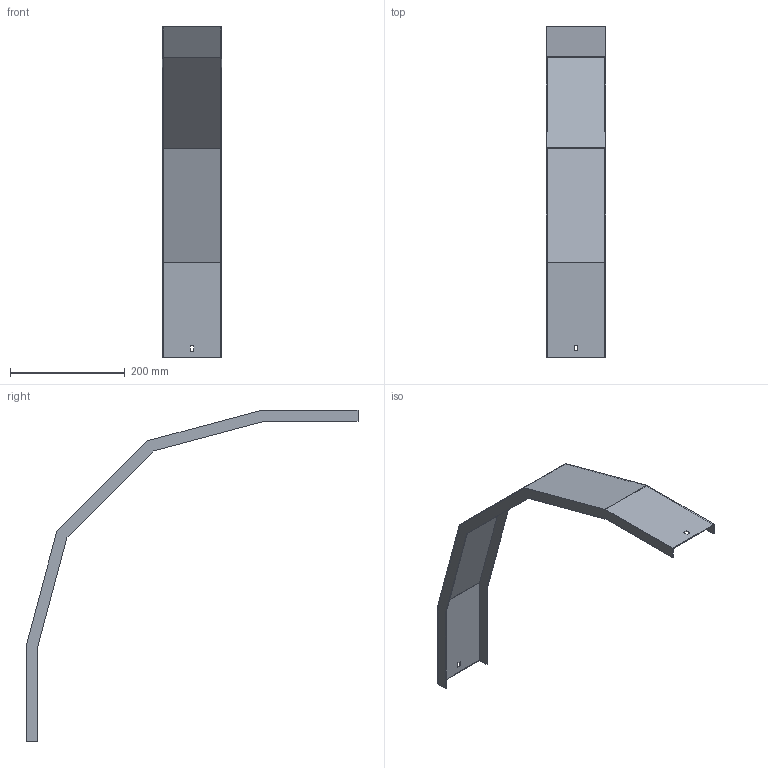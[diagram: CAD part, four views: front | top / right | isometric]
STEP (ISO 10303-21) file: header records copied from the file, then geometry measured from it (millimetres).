
FILE_DESCRIPTION (( 'STEP AP214' ), '1' );
FILE_NAME ('A2_33N3J100.step', '2025-02-21T10:45:22', ( '' ), ( '' ), 'SwSTEP 2.0', 'SolidWorks 2023', '' );
FILE_SCHEMA (( 'AUTOMOTIVE_DESIGN' ));
Length unit declared in the file: millimetre
Products named in the file (1): A2_33N3J100
Bounding box: 103 x 579.05 x 579.05 mm (x, y, z)
Volume: 202798.9 mm3; surface area: 273735.2 mm2
Topology: 1 solids, 1 shells, 34 faces, 96 edges, 64 vertices
Faces by surface type: plane 34
Entity records: 1111 total; most frequent: CARTESIAN_POINT 195, ORIENTED_EDGE 192, DIRECTION 166, LINE 96, VECTOR 96, EDGE_CURVE 96, VERTEX_POINT 64, EDGE_LOOP 38
